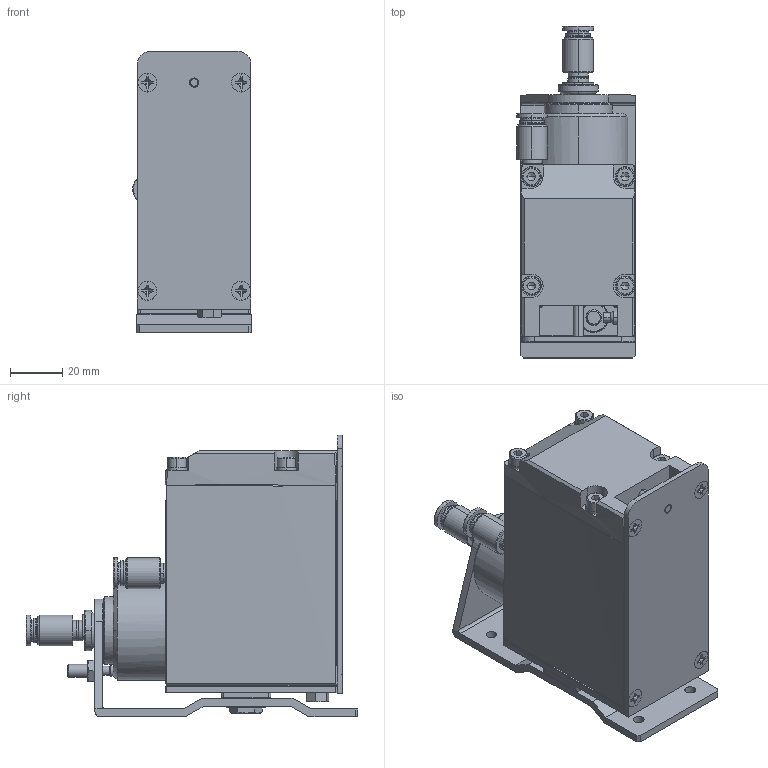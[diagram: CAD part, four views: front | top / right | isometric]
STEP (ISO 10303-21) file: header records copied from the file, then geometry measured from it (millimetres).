
FILE_DESCRIPTION (( 'STEP AP214' ), '1' );
FILE_NAME ('GT-NT20R-6.STEP', '2019-11-27T09:16:43', ( '微软用户' ), ( '微软中国' ), 'SwSTEP 2.0', 'SolidWorks 2016', '' );
FILE_SCHEMA (( 'AUTOMOTIVE_DESIGN' ));
Length unit declared in the file: millimetre
Products named in the file (1): GT-NT20R-6
Bounding box: 45.7 x 127.45 x 108.1 mm (x, y, z)
Surface area: 68626.8 mm2 (no closed solid volume)
Topology: 0 solids, 44 shells, 1144 faces, 2812 edges, 1778 vertices
Faces by surface type: plane 501, cylinder 320, bspline 223, cone 64, torus 36
Entity records: 51701 total; most frequent: CARTESIAN_POINT 20298, ORIENTED_EDGE 5491, DIRECTION 4570, EDGE_CURVE 2776, VERTEX_POINT 1778, AXIS2_PLACEMENT_3D 1720, EDGE_LOOP 1289, FACE_OUTER_BOUND 1144
